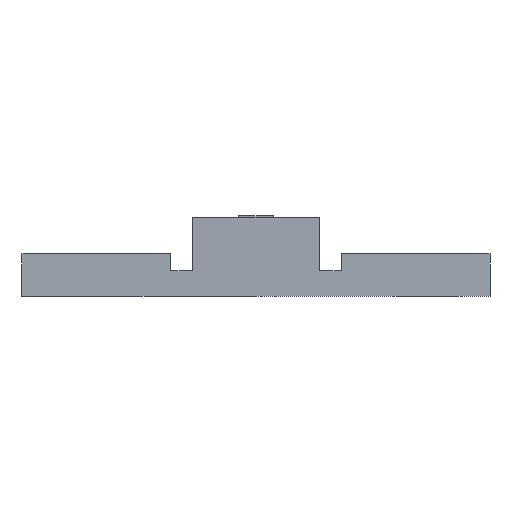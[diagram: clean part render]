
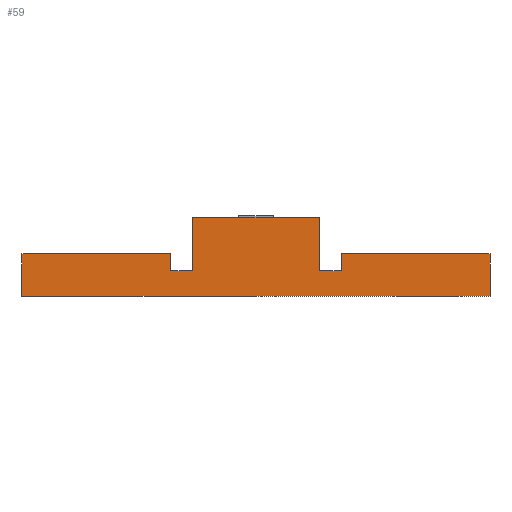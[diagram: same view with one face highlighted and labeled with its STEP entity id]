
A CAD part, front view. The second image highlights one B-rep face of the part: STEP entity #59.
In plain terms, the highlighted planar face has unit normal (0, -1, 0).
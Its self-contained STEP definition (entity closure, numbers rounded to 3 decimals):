
#59=ADVANCED_FACE('',(#312),#314,.T.);
#312=FACE_BOUND('',#313,.T.);
#313=EDGE_LOOP('',(#691,#692,#693,#694,#695,#696,#697,#698,#699,#700,#701,#702,#703,
#704));
#314=PLANE('',#315);
#315=AXIS2_PLACEMENT_3D('',#316,#317,#318);
#316=CARTESIAN_POINT('',(-11.,-4.5,0.));
#317=DIRECTION('',(0.,-1.,0.));
#318=DIRECTION('',(1.,0.,0.));
#691=ORIENTED_EDGE('',*,*,#972,.T.);
#692=ORIENTED_EDGE('',*,*,#973,.T.);
#693=ORIENTED_EDGE('',*,*,#974,.F.);
#694=ORIENTED_EDGE('',*,*,#975,.F.);
#695=ORIENTED_EDGE('',*,*,#976,.F.);
#696=ORIENTED_EDGE('',*,*,#977,.T.);
#697=ORIENTED_EDGE('',*,*,#978,.T.);
#698=ORIENTED_EDGE('',*,*,#979,.T.);
#699=ORIENTED_EDGE('',*,*,#980,.F.);
#700=ORIENTED_EDGE('',*,*,#981,.F.);
#701=ORIENTED_EDGE('',*,*,#982,.T.);
#702=ORIENTED_EDGE('',*,*,#983,.T.);
#703=ORIENTED_EDGE('',*,*,#984,.F.);
#704=ORIENTED_EDGE('',*,*,#985,.T.);
#972=EDGE_CURVE('',#1146,#1147,#1148,.F.);
#973=EDGE_CURVE('',#1147,#1149,#1150,.T.);
#974=EDGE_CURVE('',#1151,#1149,#1152,.T.);
#975=EDGE_CURVE('',#1153,#1151,#1154,.F.);
#976=EDGE_CURVE('',#1155,#1153,#1156,.T.);
#977=EDGE_CURVE('',#1155,#1157,#1158,.T.);
#978=EDGE_CURVE('',#1157,#1159,#1160,.F.);
#979=EDGE_CURVE('',#1159,#1161,#1162,.T.);
#980=EDGE_CURVE('',#1163,#1161,#1164,.T.);
#981=EDGE_CURVE('',#1165,#1163,#1166,.T.);
#982=EDGE_CURVE('',#1165,#1167,#1168,.T.);
#983=EDGE_CURVE('',#1167,#1169,#1170,.T.);
#984=EDGE_CURVE('',#1171,#1169,#1172,.T.);
#985=EDGE_CURVE('',#1171,#1146,#1173,.T.);
#1146=VERTEX_POINT('',#1317);
#1147=VERTEX_POINT('',#1318);
#1148=LINE('',#1319,#1320);
#1149=VERTEX_POINT('',#1322);
#1150=LINE('',#1323,#1324);
#1151=VERTEX_POINT('',#1326);
#1152=LINE('',#1327,#1328);
#1153=VERTEX_POINT('',#1330);
#1154=LINE('',#1331,#1332);
#1155=VERTEX_POINT('',#1334);
#1156=LINE('',#1335,#1336);
#1157=VERTEX_POINT('',#1338);
#1158=LINE('',#1339,#1340);
#1159=VERTEX_POINT('',#1342);
#1160=LINE('',#1343,#1344);
#1161=VERTEX_POINT('',#1346);
#1162=LINE('',#1347,#1348);
#1163=VERTEX_POINT('',#1350);
#1164=LINE('',#1351,#1352);
#1165=VERTEX_POINT('',#1354);
#1166=LINE('',#1355,#1356);
#1167=VERTEX_POINT('',#1358);
#1168=LINE('',#1359,#1360);
#1169=VERTEX_POINT('',#1362);
#1170=LINE('',#1363,#1364);
#1171=VERTEX_POINT('',#1366);
#1172=LINE('',#1367,#1368);
#1173=LINE('',#1370,#1371);
#1317=CARTESIAN_POINT('',(4.,-4.5,1.2));
#1318=CARTESIAN_POINT('',(3.,-4.5,1.2));
#1319=CARTESIAN_POINT('',(3.,-4.5,1.2));
#1320=VECTOR('',#1321,1.);
#1321=DIRECTION('',(1.,0.,0.));
#1322=CARTESIAN_POINT('',(3.,-4.5,3.7));
#1323=CARTESIAN_POINT('',(3.,-4.5,1.2));
#1324=VECTOR('',#1325,1.);
#1325=DIRECTION('',(0.,0.,1.));
#1326=CARTESIAN_POINT('',(0.8,-4.5,3.7));
#1327=CARTESIAN_POINT('',(0.8,-4.5,3.7));
#1328=VECTOR('',#1329,1.);
#1329=DIRECTION('',(1.,0.,0.));
#1330=CARTESIAN_POINT('',(-0.8,-4.5,3.7));
#1331=CARTESIAN_POINT('',(0.8,-4.5,3.7));
#1332=VECTOR('',#1333,1.);
#1333=DIRECTION('',(-1.,0.,0.));
#1334=CARTESIAN_POINT('',(-3.,-4.5,3.7));
#1335=CARTESIAN_POINT('',(-3.,-4.5,3.7));
#1336=VECTOR('',#1337,1.);
#1337=DIRECTION('',(1.,0.,0.));
#1338=CARTESIAN_POINT('',(-3.,-4.5,1.2));
#1339=CARTESIAN_POINT('',(-3.,-4.5,3.7));
#1340=VECTOR('',#1341,1.);
#1341=DIRECTION('',(0.,0.,-1.));
#1342=CARTESIAN_POINT('',(-4.,-4.5,1.2));
#1343=CARTESIAN_POINT('',(-4.,-4.5,1.2));
#1344=VECTOR('',#1345,1.);
#1345=DIRECTION('',(1.,0.,0.));
#1346=CARTESIAN_POINT('',(-4.,-4.5,2.));
#1347=CARTESIAN_POINT('',(-4.,-4.5,1.2));
#1348=VECTOR('',#1349,1.);
#1349=DIRECTION('',(0.,0.,1.));
#1350=CARTESIAN_POINT('',(-11.,-4.5,2.));
#1351=CARTESIAN_POINT('',(-11.,-4.5,2.));
#1352=VECTOR('',#1353,1.);
#1353=DIRECTION('',(1.,0.,0.));
#1354=CARTESIAN_POINT('',(-11.,-4.5,0.));
#1355=CARTESIAN_POINT('',(-11.,-4.5,0.));
#1356=VECTOR('',#1357,1.);
#1357=DIRECTION('',(0.,0.,1.));
#1358=CARTESIAN_POINT('',(11.,-4.5,0.));
#1359=CARTESIAN_POINT('',(-11.,-4.5,0.));
#1360=VECTOR('',#1361,1.);
#1361=DIRECTION('',(1.,0.,0.));
#1362=CARTESIAN_POINT('',(11.,-4.5,2.));
#1363=CARTESIAN_POINT('',(11.,-4.5,0.));
#1364=VECTOR('',#1365,1.);
#1365=DIRECTION('',(0.,0.,1.));
#1366=CARTESIAN_POINT('',(4.,-4.5,2.));
#1367=CARTESIAN_POINT('',(4.,-4.5,2.));
#1368=VECTOR('',#1369,1.);
#1369=DIRECTION('',(1.,0.,0.));
#1370=CARTESIAN_POINT('',(4.,-4.5,2.));
#1371=VECTOR('',#1372,1.);
#1372=DIRECTION('',(0.,0.,-1.));
